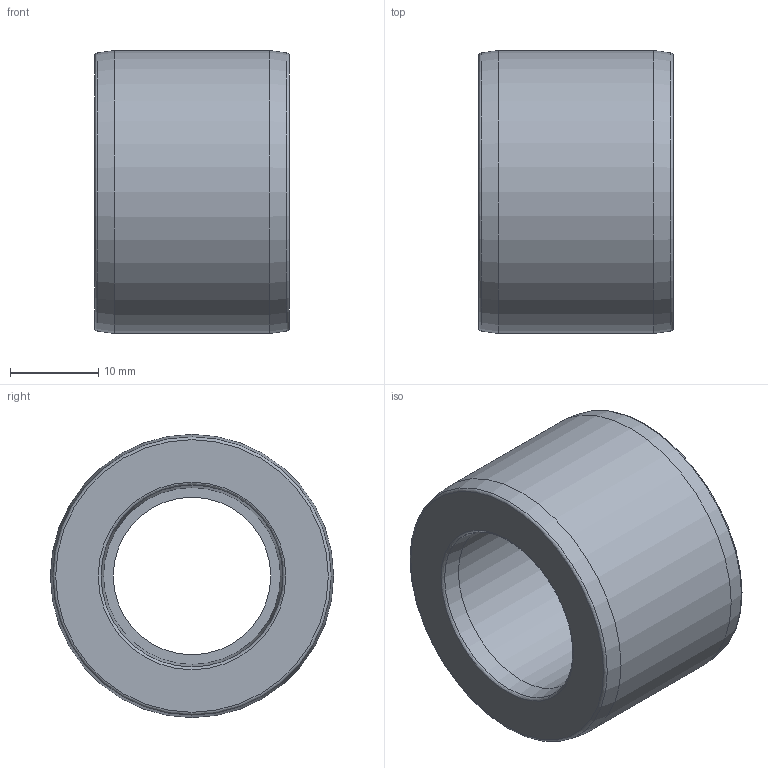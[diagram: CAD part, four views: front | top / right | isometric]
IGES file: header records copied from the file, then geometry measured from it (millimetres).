
Global section: file name: 050900032020.ipt; native system: Autodesk Inventor 2015; preprocessor: unknown; author: KIM; date: 20171207.165100; units: millimetre
Bounding box: 22 x 32 x 32 mm (x, y, z)
Volume: 10655 mm3; surface area: 4464 mm2
Topology: 1 solids, 1 shells, 15 faces, 43 edges, 31 vertices
Faces by surface type: revolution 9, plane 3, cone 2, cylinder 1
Full cylindrical faces by diameter (mm): 32 x1
